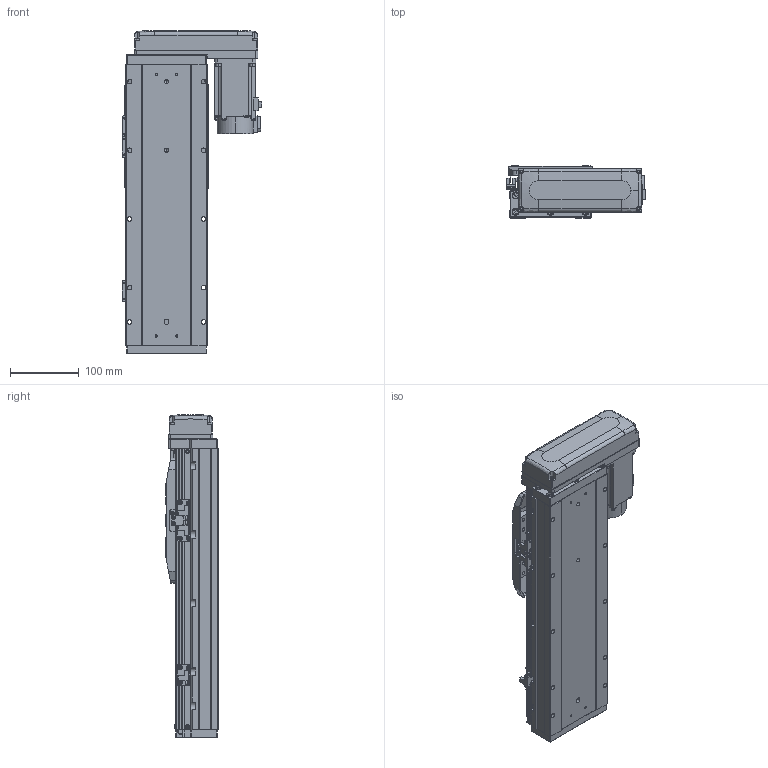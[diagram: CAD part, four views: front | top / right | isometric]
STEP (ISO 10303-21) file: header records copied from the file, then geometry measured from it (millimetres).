
FILE_DESCRIPTION (( 'STEP AP203' ), '1' );
FILE_NAME ('GTH12-200-BL-M40-C4.step', '2025-07-16T03:40:47', ( '' ), ( '' ), 'SwSTEP 2.0', 'SolidWorks 2023', '' );
FILE_SCHEMA (( 'CONFIG_CONTROL_DESIGN' ));
Length unit declared in the file: millimetre
Products named in the file (17): 感应器总成左; GBT 70.3-M3×8; GTH120-001_200; GBT 70.1-M5×16; GTH120-003; hg-kn43j_-s100_; GTH120-006; GTH80-022; CTHA86-033_M40B; GBT 70.1-M3×6; BTH-M3X5X6; GTH120-013; 感应器总成右; GTH12-200-BL-M40-C4; GTH120-004; GTH80-028; GTH120-027-1_GTH120-027-2
Assembly tree (38 placements, depth 2):
  GTH12-200-BL-M40-C4
    GTH120-001_200
    GTH120-003
    GTH120-006
    GTH120-004
    GTH120-013
    GBT 70.1-M3×6  x2
    GBT 70.1-M5×16  x10
    GBT 70.3-M3×8  x4
    GTH80-022
    GTH80-028  x2
    BTH-M3X5X6  x8
    hg-kn43j_-s100_
    CTHA86-033_M40B
    GTH120-027-1_GTH120-027-2
    感应器总成右  x2
    感应器总成左
Bounding box: 203.5 x 76 x 470.5 mm (x, y, z)
Volume: 3919622.7 mm3; surface area: 445410.8 mm2
Topology: 55 solids, 55 shells, 2313 faces, 5406 edges, 3329 vertices
Faces by surface type: plane 1196, cylinder 653, cone 288, torus 162, sphere 8, bspline 6
Entity records: 49916 total; most frequent: CARTESIAN_POINT 8546, DIRECTION 8421, ORIENTED_EDGE 7804, EDGE_CURVE 3902, AXIS2_PLACEMENT_3D 2937, VECTOR 2547, LINE 2547, VERTEX_POINT 2462
